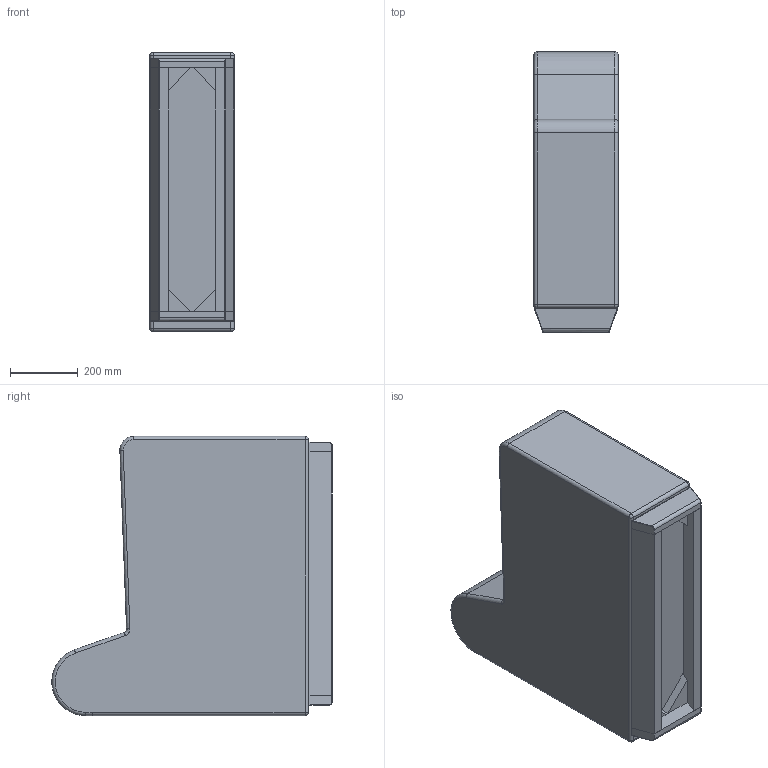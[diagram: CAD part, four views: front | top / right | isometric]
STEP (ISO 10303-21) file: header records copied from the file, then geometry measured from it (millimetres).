
FILE_DESCRIPTION(/* description */ (''),/* implementation_level */ '2;1');
FILE_NAME(/* name */ '1OH-0001 - Ohio Side Arm - STEP (Simplified).stp',/* time_stamp */ '2025-11-12T16:12:13Z',/* author */ ('craig.ferris'),/* organization */ (''),/* preprocessor_version */ 'ST-DEVELOPER v20',/* originating_system */ 'Autodesk Inventor 2025',/* authorisation */ '');
FILE_SCHEMA (('AUTOMOTIVE_DESIGN { 1 0 10303 214 3 1 1 }'));
Length unit declared in the file: millimetre
Products named in the file (1): 1OH-0001 - Ohio Side Arm (Simplified)
Bounding box: 250 x 829.7 x 826.41 mm (x, y, z)
Volume: 130298821.4 mm3; surface area: 2509213.5 mm2
Topology: 10 solids, 10 shells, 113 faces, 241 edges, 140 vertices
Faces by surface type: plane 58, cylinder 37, sphere 8, torus 6, bspline 4
Entity records: 3145 total; most frequent: CARTESIAN_POINT 687, DIRECTION 519, ORIENTED_EDGE 466, EDGE_CURVE 233, AXIS2_PLACEMENT_3D 184, LINE 151, VECTOR 151, VERTEX_POINT 140
